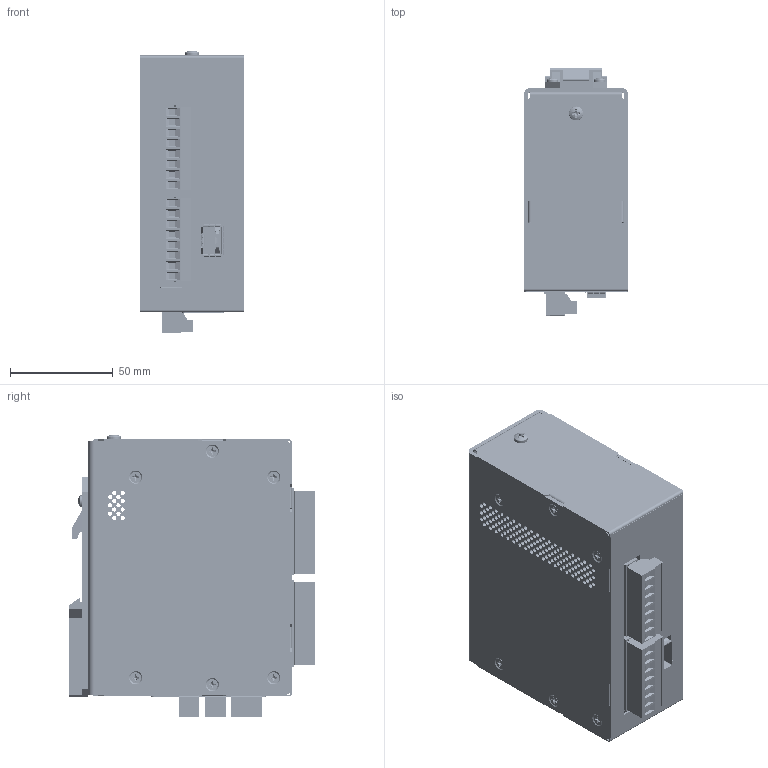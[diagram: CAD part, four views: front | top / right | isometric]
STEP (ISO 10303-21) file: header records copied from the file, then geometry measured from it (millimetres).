
FILE_DESCRIPTION(/* description */ ('STEP AP242','CAx-IF Rec.Pracs.---Representation and Presentation of Product Manufacturing Information (PMI)---4.0---2014-10-13','CAx-IF Rec.Pracs.---3D Tessellated Geometry---0.4---2014-09-14','2;1'),/* implementation_level */ '2;1');
FILE_NAME(/* name */ '65fdbc5e9ff8cd440c929fd3',/* time_stamp */ '2024-03-22T17:14:10Z',/* author */ (''),/* organization */ (''),/* preprocessor_version */ 'ST-DEVELOPER v19.4',/* originating_system */ ' ',/* authorisation */ ' ');
FILE_SCHEMA (('AP242_MANAGED_MODEL_BASED_3D_ENGINEERING_MIM_LF { 1 0 10303 442 1 1 4 }'));
Products named in the file (35): AD-133 - Rev A - 8CD-XX-XX-2 - 8 Channel Contact Closure SFP; 96640A334_Black-Oxide 18-8 Stainless Steel Phillips Flat Head Screws; Bottom Label; 2320089_UTA_107_30-select; Front Label; Pan head machine screw #4-40 x 0.3125; Pan head machine screw #6-32 x 0.25; H-098 <1>; H-098; PEM CLS-440-2  ; H-099 <1>; PEM SMPS-440; H-099; PEM SMPS-632; PCB Assembly <1>; PCB Board; Hole Pad; 91780A166_Female Threaded Hex Standoff; 93505A430_Male-Female Threaded Hex Standoff; C-796638-3; C-796634-8; C-796638-2; C-796638-8; Pan head machine screw #4-40 x 0.25; C-796634-2; M-U77-A1619-2X0X-REVM1; C-796634-3
Assembly tree (69 placements, depth 3):
  AD-133 - Rev A - 8CD-XX-XX-2 - 8 Channel Contact Closure SFP
    96640A334_Black-Oxide 18-8 Stainless Steel Phillips Flat Head Screws  x12
    Bottom Label
    2320089_UTA_107_30-select
    Front Label
    Pan head machine screw #4-40 x 0.3125  x3
    Pan head machine screw #6-32 x 0.25
    H-098 <1>
      H-098
      PEM CLS-440-2    x3
    H-099 <1>
      PEM SMPS-440  x8
      H-099
      PEM SMPS-632
    PCB Assembly <1>
      PCB Board
      Hole Pad
      91780A166_Female Threaded Hex Standoff  x4
      93505A430_Male-Female Threaded Hex Standoff  x4
      C-796638-3
      C-796634-8  x2
      C-796638-2  x2
      C-796638-8  x2
      Hole Pad
      Hole Pad
      Pan head machine screw #4-40 x 0.25  x4
      Hole Pad
      PCB Board
      Hole Pad
      C-796634-2  x2
      Hole Pad
      Hole Pad
      M-U77-A1619-2X0X-REVM1
      C-796634-3
      Hole Pad
Bounding box: 50.8 x 120.36 x 137.91 mm (x, y, z)
Volume: 140883.4 mm3; surface area: 183900.6 mm2
Topology: 66 solids, 116 shells, 6026 faces, 17037 edges, 11546 vertices
Faces by surface type: plane 3859, cylinder 1357, bspline 350, cone 272, torus 178, sphere 10
Full cylindrical faces by diameter (mm): 2 x12, 2.02 x4, 2.057 x340, 2.156 x11, 2.642 x1, 2.845 x91, 3.048 x22, 3.175 x8, 3.251 x12, 3.3 x10, 3.505 x1, 4 x33, 4.191 x11, 4.216 x11, 4.724 x1, 4.75 x1, 5.563 x7, 5.588 x8, 6.35 x3, 6.401 x1, 6.858 x1, 7 x1, 7.62 x16
Entity records: 119941 total; most frequent: CARTESIAN_POINT 31135, ORIENTED_EDGE 17822, DIRECTION 17328, EDGE_CURVE 8911, VERTEX_POINT 6249, AXIS2_PLACEMENT_3D 5948, LINE 5432, VECTOR 5432
